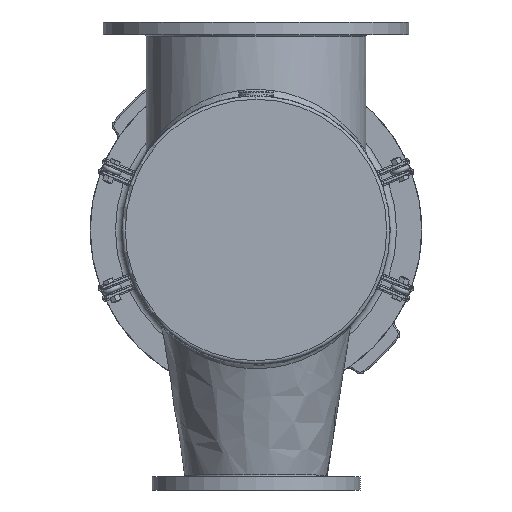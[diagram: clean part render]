
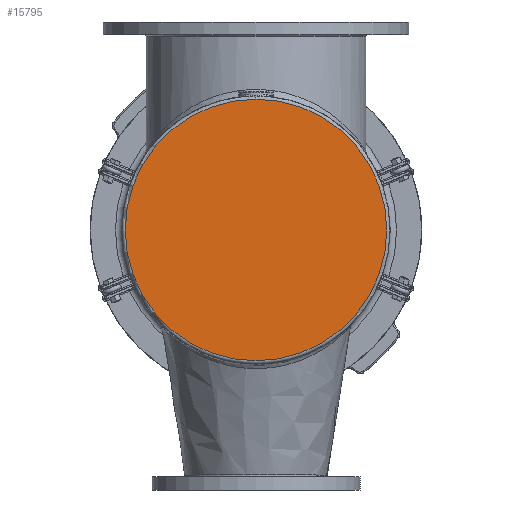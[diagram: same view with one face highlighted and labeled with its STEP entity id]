
A CAD part, front view. The second image highlights one B-rep face of the part: STEP entity #15795.
In plain terms, the highlighted planar face has unit normal (0, -1, 0).
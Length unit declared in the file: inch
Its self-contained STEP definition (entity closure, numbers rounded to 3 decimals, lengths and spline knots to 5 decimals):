
#2254=PLANE('',#16849);
#3595=FACE_OUTER_BOUND('',#4603,.T.);
#4603=EDGE_LOOP('',(#10536));
#5841=CIRCLE('',#16841,10.0625);
#6803=VERTEX_POINT('',#24041);
#8243=EDGE_CURVE('',#6803,#6803,#5841,.T.);
#10536=ORIENTED_EDGE('',*,*,#8243,.F.);
#15795=ADVANCED_FACE('',(#3595),#2254,.F.);
#16841=AXIS2_PLACEMENT_3D('',#24042,#18883,#18884);
#16849=AXIS2_PLACEMENT_3D('',#24053,#18899,#18900);
#18883=DIRECTION('center_axis',(0.,1.,0.));
#18884=DIRECTION('ref_axis',(1.,0.,0.));
#18899=DIRECTION('center_axis',(0.,1.,0.));
#18900=DIRECTION('ref_axis',(0.,0.,1.));
#24041=CARTESIAN_POINT('',(-10.0625,0.,0.));
#24042=CARTESIAN_POINT('Origin',(0.,0.,0.));
#24053=CARTESIAN_POINT('Origin',(0.,0.,0.));
